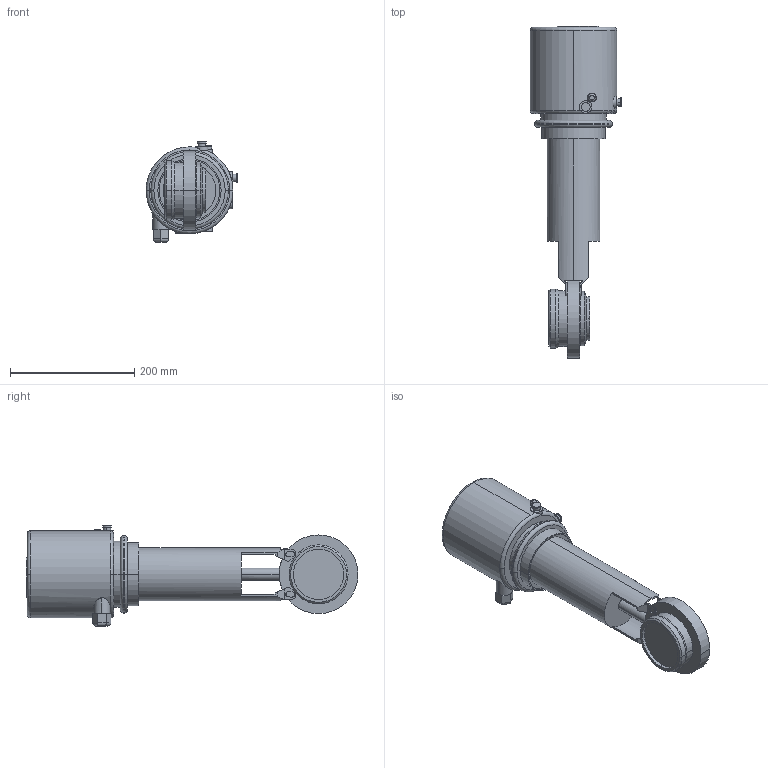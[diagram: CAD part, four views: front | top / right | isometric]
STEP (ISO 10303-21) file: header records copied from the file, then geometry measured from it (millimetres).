
FILE_DESCRIPTION(('Creo Elements/Direct Modeling STEP Export'),'2;1');
FILE_NAME('SV1-65-CU4-1S2G.stp','2014-07-07T14:47:48',(''),(''),'Creo Elements/Direct Modeling STEP processor for AP214 (Solid Model)','Creo Elements/Direct Modeling 17.0D 15-Jul-2011 (C) Parametric Technology GmbH','');
FILE_SCHEMA(('AUTOMOTIVE_DESIGN { 1 0 10303 214 1 1 1 1 }'));
Length unit declared in the file: millimetre
Products named in the file (3): SV1-65-FZ-1S2G; CU4-T-SPX_logo; SV1-65-CU4-1S2G
Assembly tree (2 placements, depth 2):
  SV1-65-CU4-1S2G
    CU4-T-SPX_logo
    SV1-65-FZ-1S2G
Bounding box: 148 x 534.93 x 161.4 mm (x, y, z)
Volume: 4002399.9 mm3; surface area: 239842.6 mm2
Topology: 2 solids, 2 shells, 253 faces, 652 edges, 420 vertices
Faces by surface type: plane 114, cylinder 86, extrusion 33, torus 14, cone 6
Entity records: 11038 total; most frequent: CARTESIAN_POINT 5175, ORIENTED_EDGE 1304, DIRECTION 1052, EDGE_CURVE 652, VERTEX_POINT 420, AXIS2_PLACEMENT_3D 361, VECTOR 330, LINE 297
